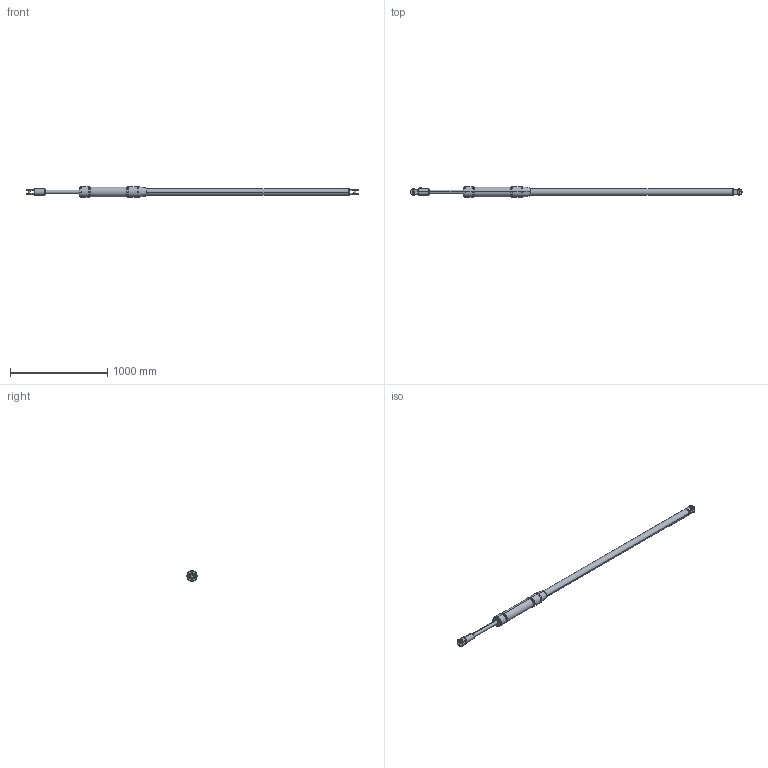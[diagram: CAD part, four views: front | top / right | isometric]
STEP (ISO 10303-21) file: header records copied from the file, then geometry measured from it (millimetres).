
FILE_DESCRIPTION (( 'STEP AP203' ), '1' );
FILE_NAME ('VNG_080.STEP', '2018-01-09T10:30:30', ( 'utente' ), ( '' ), 'SwSTEP 2.0', 'SolidWorks 2015', '' );
FILE_SCHEMA (( 'CONFIG_CONTROL_DESIGN' ));
Length unit declared in the file: millimetre
Products named in the file (1): VNG_080
Bounding box: 3419 x 108 x 108 mm (x, y, z)
Volume: 14936728.4 mm3; surface area: 865603.2 mm2
Topology: 11 solids, 11 shells, 240 faces, 533 edges, 323 vertices
Faces by surface type: plane 90, cylinder 87, cone 36, torus 23, bspline 4
Entity records: 7308 total; most frequent: CARTESIAN_POINT 1909, DIRECTION 1181, ORIENTED_EDGE 1066, EDGE_CURVE 533, AXIS2_PLACEMENT_3D 479, VERTEX_POINT 323, EDGE_LOOP 248, CIRCLE 242
